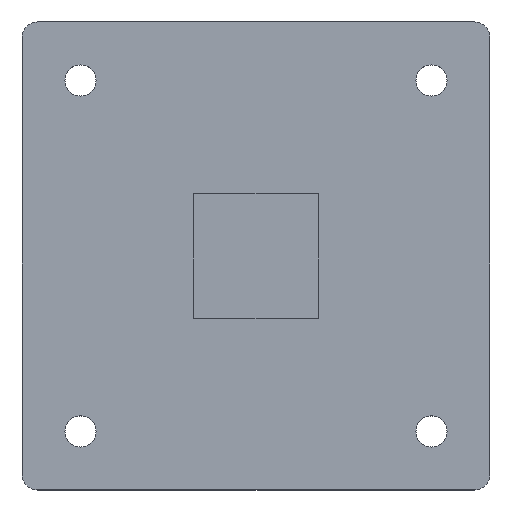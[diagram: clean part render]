
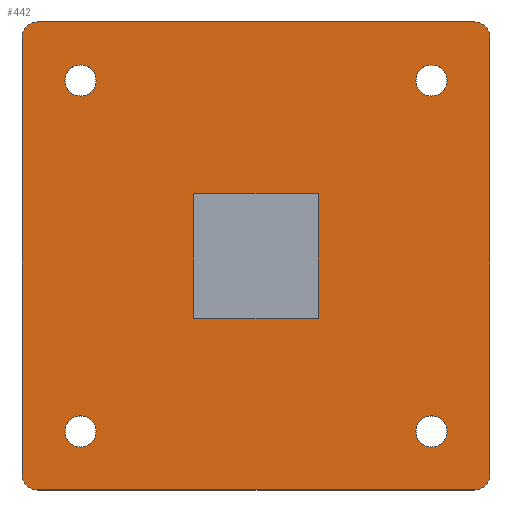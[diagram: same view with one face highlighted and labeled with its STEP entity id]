
A CAD part, top view. The second image highlights one B-rep face of the part: STEP entity #442.
In plain terms, the highlighted planar face has unit normal (0, 0, 1).
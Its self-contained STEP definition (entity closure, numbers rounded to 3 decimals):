
#212 = VERTEX_POINT( '', #583 );
#214 = VERTEX_POINT( '', #585 );
#218 = EDGE_CURVE( '', #250, #384, #589, .T. );
#228 = VERTEX_POINT( '', #599 );
#242 = EDGE_CURVE( '', #268, #250, #615, .T. );
#250 = VERTEX_POINT( '', #624 );
#258 = EDGE_CURVE( '', #290, #268, #632, .T. );
#260 = VERTEX_POINT( '', #634 );
#268 = VERTEX_POINT( '', #643 );
#280 = EDGE_CURVE( '', #306, #290, #655, .T. );
#284 = EDGE_CURVE( '', #474, #212, #661, .T. );
#290 = VERTEX_POINT( '', #667 );
#300 = EDGE_CURVE( '', #332, #306, #679, .T. );
#306 = VERTEX_POINT( '', #686 );
#316 = EDGE_CURVE( '', #350, #332, #704, .T. );
#328 = VERTEX_POINT( '', #718 );
#330 = EDGE_CURVE( '', #328, #390, #720, .T. );
#332 = VERTEX_POINT( '', #722 );
#344 = EDGE_CURVE( '', #376, #350, #735, .T. );
#350 = VERTEX_POINT( '', #742 );
#364 = EDGE_CURVE( '', #384, #376, #756, .T. );
#376 = VERTEX_POINT( '', #771 );
#384 = VERTEX_POINT( '', #780 );
#388 = EDGE_CURVE( '', #214, #418, #784, .T. );
#390 = VERTEX_POINT( '', #786 );
#394 = EDGE_CURVE( '', #260, #228, #790, .T. );
#406 = EDGE_CURVE( '', #390, #328, #803, .T. );
#414 = EDGE_CURVE( '', #212, #474, #811, .T. );
#418 = VERTEX_POINT( '', #815 );
#438 = EDGE_CURVE( '', #460, #534, #837, .T. );
#442 = ADVANCED_FACE( '', ( #842, #843, #844, #845, #846, #847 ), #848, .T. );
#458 = EDGE_CURVE( '', #514, #460, #865, .T. );
#460 = VERTEX_POINT( '', #867 );
#474 = VERTEX_POINT( '', #882 );
#496 = EDGE_CURVE( '', #550, #514, #907, .T. );
#502 = EDGE_CURVE( '', #228, #260, #914, .T. );
#514 = VERTEX_POINT( '', #926 );
#516 = EDGE_CURVE( '', #418, #214, #928, .T. );
#534 = VERTEX_POINT( '', #948 );
#544 = EDGE_CURVE( '', #534, #550, #959, .T. );
#550 = VERTEX_POINT( '', #966 );
#583 = CARTESIAN_POINT( '', ( -20.5, 22.5, 0. ) );
#585 = CARTESIAN_POINT( '', ( 24.5, -22.5, 0. ) );
#589 = CIRCLE( '', #1002, 2. );
#599 = CARTESIAN_POINT( '', ( 20.5, 22.5, 0. ) );
#615 = LINE( '', #1033, #1034 );
#624 = CARTESIAN_POINT( '', ( -28., -30., 0. ) );
#632 = CIRCLE( '', #1060, 2. );
#634 = CARTESIAN_POINT( '', ( 24.5, 22.5, 0. ) );
#643 = CARTESIAN_POINT( '', ( 28., -30., 0. ) );
#655 = LINE( '', #1093, #1094 );
#661 = CIRCLE( '', #1101, 2. );
#667 = CARTESIAN_POINT( '', ( 30., -28., 0. ) );
#679 = CIRCLE( '', #1123, 2. );
#686 = CARTESIAN_POINT( '', ( 30., 28., 0. ) );
#704 = LINE( '', #1153, #1154 );
#718 = CARTESIAN_POINT( '', ( -24.5, -22.5, 0. ) );
#720 = CIRCLE( '', #1174, 2. );
#722 = CARTESIAN_POINT( '', ( 28., 30., 0. ) );
#735 = CIRCLE( '', #1196, 2. );
#742 = CARTESIAN_POINT( '', ( -28., 30., 0. ) );
#756 = LINE( '', #1223, #1224 );
#771 = CARTESIAN_POINT( '', ( -30., 28., 0. ) );
#780 = CARTESIAN_POINT( '', ( -30., -28., 0. ) );
#784 = CIRCLE( '', #1255, 2. );
#786 = CARTESIAN_POINT( '', ( -20.5, -22.5, 0. ) );
#790 = CIRCLE( '', #1262, 2. );
#803 = CIRCLE( '', #1278, 2. );
#811 = CIRCLE( '', #1292, 2. );
#815 = CARTESIAN_POINT( '', ( 20.5, -22.5, 0. ) );
#837 = LINE( '', #1327, #1328 );
#842 = FACE_BOUND( '', #1333, .T. );
#843 = FACE_OUTER_BOUND( '', #1334, .T. );
#844 = FACE_BOUND( '', #1335, .T. );
#845 = FACE_BOUND( '', #1336, .T. );
#846 = FACE_BOUND( '', #1337, .T. );
#847 = FACE_BOUND( '', #1338, .T. );
#848 = PLANE( '', #1339 );
#865 = LINE( '', #1366, #1367 );
#867 = CARTESIAN_POINT( '', ( 8., 8., 0. ) );
#882 = CARTESIAN_POINT( '', ( -24.5, 22.5, 0. ) );
#907 = LINE( '', #1417, #1418 );
#914 = CIRCLE( '', #1428, 2. );
#926 = CARTESIAN_POINT( '', ( -8., 8., 0. ) );
#928 = CIRCLE( '', #1449, 2. );
#948 = CARTESIAN_POINT( '', ( 8., -8., 0. ) );
#959 = LINE( '', #1489, #1490 );
#966 = CARTESIAN_POINT( '', ( -8., -8., 0. ) );
#1002 = AXIS2_PLACEMENT_3D( '', #1525, #1526, #1527 );
#1033 = CARTESIAN_POINT( '', ( -28., -30., 0. ) );
#1034 = VECTOR( '', #1555, 1. );
#1060 = AXIS2_PLACEMENT_3D( '', #1573, #1574, #1575 );
#1093 = CARTESIAN_POINT( '', ( 30., -28., 0. ) );
#1094 = VECTOR( '', #1596, 1. );
#1101 = AXIS2_PLACEMENT_3D( '', #1607, #1608, #1609 );
#1123 = AXIS2_PLACEMENT_3D( '', #1635, #1636, #1637 );
#1153 = CARTESIAN_POINT( '', ( 28., 30., 0. ) );
#1154 = VECTOR( '', #1686, 1. );
#1174 = AXIS2_PLACEMENT_3D( '', #1712, #1713, #1714 );
#1196 = AXIS2_PLACEMENT_3D( '', #1726, #1727, #1728 );
#1223 = CARTESIAN_POINT( '', ( -30., 28., 0. ) );
#1224 = VECTOR( '', #1742, 1. );
#1255 = AXIS2_PLACEMENT_3D( '', #1774, #1775, #1776 );
#1262 = AXIS2_PLACEMENT_3D( '', #1777, #1778, #1779 );
#1278 = AXIS2_PLACEMENT_3D( '', #1792, #1793, #1794 );
#1292 = AXIS2_PLACEMENT_3D( '', #1800, #1801, #1802 );
#1327 = CARTESIAN_POINT( '', ( 8., 4., 0. ) );
#1328 = VECTOR( '', #1823, 1. );
#1333 = EDGE_LOOP( '', ( #1833, #1834, #1835, #1836 ) );
#1334 = EDGE_LOOP( '', ( #1837, #1838, #1839, #1840, #1841, #1842, #1843, #1844 ) );
#1335 = EDGE_LOOP( '', ( #1845, #1846 ) );
#1336 = EDGE_LOOP( '', ( #1847, #1848 ) );
#1337 = EDGE_LOOP( '', ( #1849, #1850 ) );
#1338 = EDGE_LOOP( '', ( #1851, #1852 ) );
#1339 = AXIS2_PLACEMENT_3D( '', #1853, #1854, #1855 );
#1366 = CARTESIAN_POINT( '', ( -4., 8., 0. ) );
#1367 = VECTOR( '', #1871, 1. );
#1417 = CARTESIAN_POINT( '', ( -8., -4., 0. ) );
#1418 = VECTOR( '', #1907, 1. );
#1428 = AXIS2_PLACEMENT_3D( '', #1917, #1918, #1919 );
#1449 = AXIS2_PLACEMENT_3D( '', #1928, #1929, #1930 );
#1489 = CARTESIAN_POINT( '', ( 4., -8., 0. ) );
#1490 = VECTOR( '', #1964, 1. );
#1525 = CARTESIAN_POINT( '', ( -28., -28., 0. ) );
#1526 = DIRECTION( '', ( 0., 0., -1. ) );
#1527 = DIRECTION( '', ( -1., 0., 0. ) );
#1555 = DIRECTION( '', ( -1., 0., 0. ) );
#1573 = CARTESIAN_POINT( '', ( 28., -28., 0. ) );
#1574 = DIRECTION( '', ( 0., 0., -1. ) );
#1575 = DIRECTION( '', ( 0., -1., 0. ) );
#1596 = DIRECTION( '', ( 0., -1., 0. ) );
#1607 = CARTESIAN_POINT( '', ( -22.5, 22.5, 0. ) );
#1608 = DIRECTION( '', ( 0., 0., 1. ) );
#1609 = DIRECTION( '', ( 1., 0., 0. ) );
#1635 = CARTESIAN_POINT( '', ( 28., 28., 0. ) );
#1636 = DIRECTION( '', ( 0., 0., -1. ) );
#1637 = DIRECTION( '', ( 1., 0., 0. ) );
#1686 = DIRECTION( '', ( 1., 0., 0. ) );
#1712 = CARTESIAN_POINT( '', ( -22.5, -22.5, 0. ) );
#1713 = DIRECTION( '', ( 0., 0., 1. ) );
#1714 = DIRECTION( '', ( 1., 0., 0. ) );
#1726 = CARTESIAN_POINT( '', ( -28., 28., 0. ) );
#1727 = DIRECTION( '', ( 0., 0., -1. ) );
#1728 = DIRECTION( '', ( 0., 1., 0. ) );
#1742 = DIRECTION( '', ( 0., 1., 0. ) );
#1774 = CARTESIAN_POINT( '', ( 22.5, -22.5, 0. ) );
#1775 = DIRECTION( '', ( 0., 0., 1. ) );
#1776 = DIRECTION( '', ( 1., 0., 0. ) );
#1777 = CARTESIAN_POINT( '', ( 22.5, 22.5, 0. ) );
#1778 = DIRECTION( '', ( 0., 0., 1. ) );
#1779 = DIRECTION( '', ( 1., 0., 0. ) );
#1792 = CARTESIAN_POINT( '', ( -22.5, -22.5, 0. ) );
#1793 = DIRECTION( '', ( 0., 0., 1. ) );
#1794 = DIRECTION( '', ( 1., 0., 0. ) );
#1800 = CARTESIAN_POINT( '', ( -22.5, 22.5, 0. ) );
#1801 = DIRECTION( '', ( 0., 0., 1. ) );
#1802 = DIRECTION( '', ( 1., 0., 0. ) );
#1823 = DIRECTION( '', ( 0., -1., 0. ) );
#1833 = ORIENTED_EDGE( '', *, *, #458, .T. );
#1834 = ORIENTED_EDGE( '', *, *, #438, .T. );
#1835 = ORIENTED_EDGE( '', *, *, #544, .T. );
#1836 = ORIENTED_EDGE( '', *, *, #496, .T. );
#1837 = ORIENTED_EDGE( '', *, *, #364, .F. );
#1838 = ORIENTED_EDGE( '', *, *, #218, .F. );
#1839 = ORIENTED_EDGE( '', *, *, #242, .F. );
#1840 = ORIENTED_EDGE( '', *, *, #258, .F. );
#1841 = ORIENTED_EDGE( '', *, *, #280, .F. );
#1842 = ORIENTED_EDGE( '', *, *, #300, .F. );
#1843 = ORIENTED_EDGE( '', *, *, #316, .F. );
#1844 = ORIENTED_EDGE( '', *, *, #344, .F. );
#1845 = ORIENTED_EDGE( '', *, *, #388, .F. );
#1846 = ORIENTED_EDGE( '', *, *, #516, .F. );
#1847 = ORIENTED_EDGE( '', *, *, #394, .F. );
#1848 = ORIENTED_EDGE( '', *, *, #502, .F. );
#1849 = ORIENTED_EDGE( '', *, *, #406, .F. );
#1850 = ORIENTED_EDGE( '', *, *, #330, .F. );
#1851 = ORIENTED_EDGE( '', *, *, #414, .F. );
#1852 = ORIENTED_EDGE( '', *, *, #284, .F. );
#1853 = CARTESIAN_POINT( '', ( 0., 0., 0. ) );
#1854 = DIRECTION( '', ( 0., 0., 1. ) );
#1855 = DIRECTION( '', ( 1., 0., 0. ) );
#1871 = DIRECTION( '', ( 1., 0., 0. ) );
#1907 = DIRECTION( '', ( 0., 1., 0. ) );
#1917 = CARTESIAN_POINT( '', ( 22.5, 22.5, 0. ) );
#1918 = DIRECTION( '', ( 0., 0., 1. ) );
#1919 = DIRECTION( '', ( 1., 0., 0. ) );
#1928 = CARTESIAN_POINT( '', ( 22.5, -22.5, 0. ) );
#1929 = DIRECTION( '', ( 0., 0., 1. ) );
#1930 = DIRECTION( '', ( 1., 0., 0. ) );
#1964 = DIRECTION( '', ( -1., 0., 0. ) );
